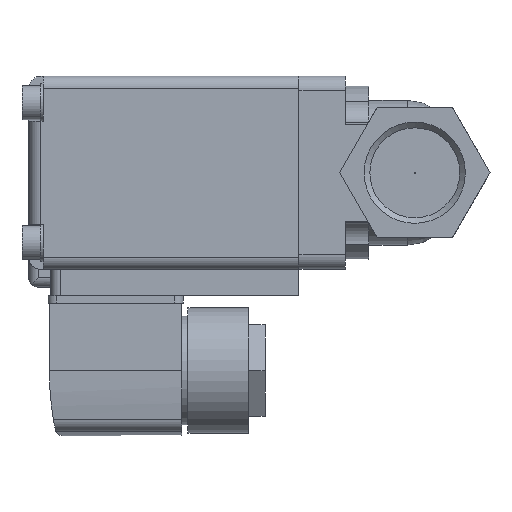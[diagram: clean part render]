
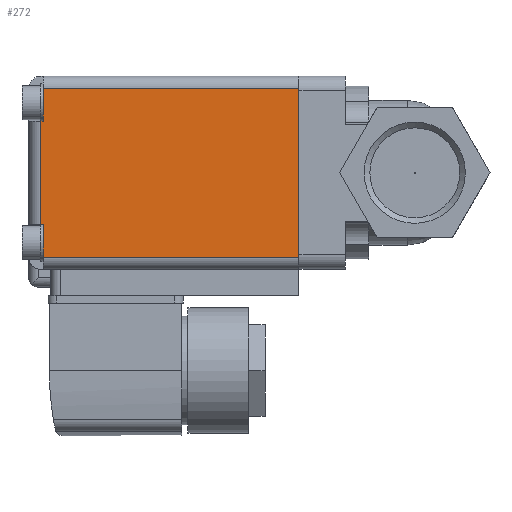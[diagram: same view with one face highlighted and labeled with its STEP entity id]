
A CAD part, left-side view. The second image highlights one B-rep face of the part: STEP entity #272.
In plain terms, the highlighted planar face has unit normal (-1, 0, 0).
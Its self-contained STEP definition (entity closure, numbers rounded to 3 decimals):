
#272 = ADVANCED_FACE( '', ( #714 ), #715, .F. );
#714 = FACE_OUTER_BOUND( '', #1360, .T. );
#715 = PLANE( '', #1361 );
#1360 = EDGE_LOOP( '', ( #2050, #2051, #2052, #2053, #2054, #2055, #2056, #2057 ) );
#1361 = AXIS2_PLACEMENT_3D( '', #2058, #2059, #2060 );
#2050 = ORIENTED_EDGE( '', *, *, #3905, .T. );
#2051 = ORIENTED_EDGE( '', *, *, #3906, .T. );
#2052 = ORIENTED_EDGE( '', *, *, #3907, .F. );
#2053 = ORIENTED_EDGE( '', *, *, #3908, .T. );
#2054 = ORIENTED_EDGE( '', *, *, #3909, .T. );
#2055 = ORIENTED_EDGE( '', *, *, #3910, .F. );
#2056 = ORIENTED_EDGE( '', *, *, #3911, .F. );
#2057 = ORIENTED_EDGE( '', *, *, #3912, .F. );
#2058 = CARTESIAN_POINT( '', ( -20., 56., -20. ) );
#2059 = DIRECTION( '', ( 1., 0., 0. ) );
#2060 = DIRECTION( '', ( 0., 0., -1. ) );
#3905 = EDGE_CURVE( '', #4646, #4647, #4648, .T. );
#3906 = EDGE_CURVE( '', #4647, #4649, #4650, .T. );
#3907 = EDGE_CURVE( '', #4651, #4649, #4652, .T. );
#3908 = EDGE_CURVE( '', #4651, #4653, #4654, .T. );
#3909 = EDGE_CURVE( '', #4653, #4655, #4656, .T. );
#3910 = EDGE_CURVE( '', #4657, #4655, #4658, .T. );
#3911 = EDGE_CURVE( '', #4659, #4657, #4660, .T. );
#3912 = EDGE_CURVE( '', #4646, #4659, #4661, .T. );
#4646 = VERTEX_POINT( '', #5752 );
#4647 = VERTEX_POINT( '', #5753 );
#4648 = LINE( '', #5754, #5755 );
#4649 = VERTEX_POINT( '', #5756 );
#4650 = LINE( '', #5757, #5758 );
#4651 = VERTEX_POINT( '', #5759 );
#4652 = LINE( '', #5760, #5761 );
#4653 = VERTEX_POINT( '', #5762 );
#4654 = LINE( '', #5763, #5764 );
#4655 = VERTEX_POINT( '', #5765 );
#4656 = LINE( '', #5766, #5767 );
#4657 = VERTEX_POINT( '', #5768 );
#4658 = LINE( '', #5769, #5770 );
#4659 = VERTEX_POINT( '', #5771 );
#4660 = LINE( '', #5772, #5773 );
#4661 = LINE( '', #5774, #5775 );
#5752 = CARTESIAN_POINT( '', ( -20., 53.5, 10.7 ) );
#5753 = CARTESIAN_POINT( '', ( -20., 53.5, -10.7 ) );
#5754 = CARTESIAN_POINT( '', ( -20., 53.5, 22. ) );
#5755 = VECTOR( '', #7556, 1000. );
#5756 = CARTESIAN_POINT( '', ( -20., 53., -10.7 ) );
#5757 = CARTESIAN_POINT( '', ( -20., 56., -10.7 ) );
#5758 = VECTOR( '', #7557, 1000. );
#5759 = CARTESIAN_POINT( '', ( -20., 53., -17.5 ) );
#5760 = CARTESIAN_POINT( '', ( -20., 53., -20. ) );
#5761 = VECTOR( '', #7558, 1000. );
#5762 = CARTESIAN_POINT( '', ( -20., 0., -17.5 ) );
#5763 = CARTESIAN_POINT( '', ( -20., 56., -17.5 ) );
#5764 = VECTOR( '', #7559, 1000. );
#5765 = CARTESIAN_POINT( '', ( -20., 0., 17.5 ) );
#5766 = CARTESIAN_POINT( '', ( -20., 0., -20. ) );
#5767 = VECTOR( '', #7560, 1000. );
#5768 = CARTESIAN_POINT( '', ( -20., 53., 17.5 ) );
#5769 = CARTESIAN_POINT( '', ( -20., 56., 17.5 ) );
#5770 = VECTOR( '', #7561, 1000. );
#5771 = CARTESIAN_POINT( '', ( -20., 53., 10.7 ) );
#5772 = CARTESIAN_POINT( '', ( -20., 53., -20. ) );
#5773 = VECTOR( '', #7562, 1000. );
#5774 = CARTESIAN_POINT( '', ( -20., 56., 10.7 ) );
#5775 = VECTOR( '', #7563, 1000. );
#7556 = DIRECTION( '', ( 0., 0., -1. ) );
#7557 = DIRECTION( '', ( 0., -1., 0. ) );
#7558 = DIRECTION( '', ( 0., 0., 1. ) );
#7559 = DIRECTION( '', ( 0., -1., 0. ) );
#7560 = DIRECTION( '', ( 0., 0., 1. ) );
#7561 = DIRECTION( '', ( 0., -1., 0. ) );
#7562 = DIRECTION( '', ( 0., 0., 1. ) );
#7563 = DIRECTION( '', ( 0., -1., 0. ) );
